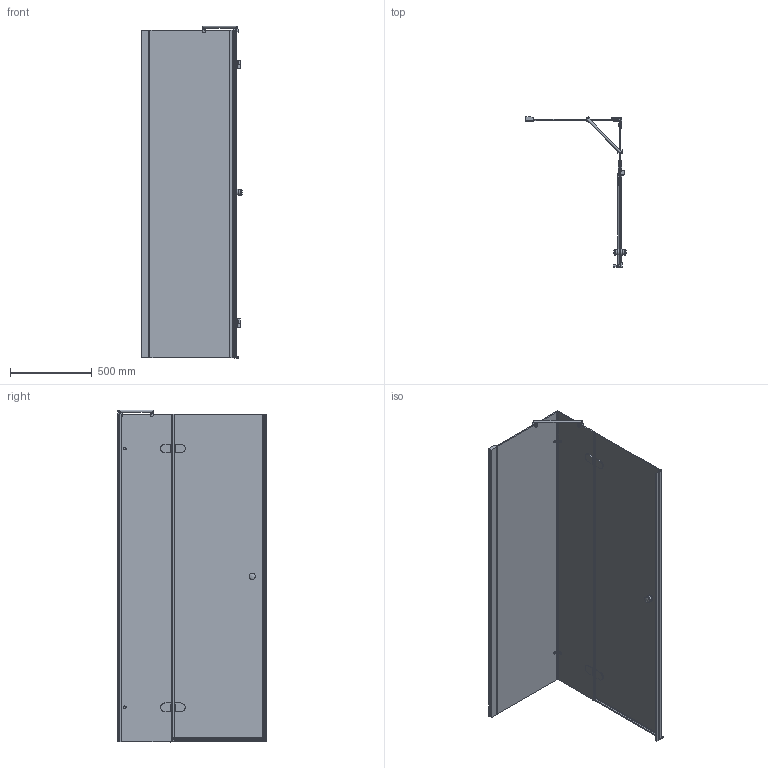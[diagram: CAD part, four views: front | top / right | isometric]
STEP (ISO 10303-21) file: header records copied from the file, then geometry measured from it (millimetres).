
FILE_DESCRIPTION(/* description */ (''),/* implementation_level */ '2;1');
FILE_NAME(/* name */ 'E:\Работа\Сергей\Душевые кабинки\! Работа\36\LUX SQUARE GK-883PGS\LUX SQUARE GK-883PGS правая модель\LUX SQUARE GK-883PGS ПРАВАЯ-3D.stp',/* time_stamp */ '2018-02-17T09:52:37+03:00',/* author */ ('PC'),/* organization */ (''),/* preprocessor_version */ 'ST-DEVELOPER v15.2',/* originating_system */ 'Autodesk Inventor 2014',/* authorisation */ '');
FILE_SCHEMA (('AUTOMOTIVE_DESIGN { 1 0 10303 214 3 1 1 }'));
Length unit declared in the file: millimetre
Products named in the file (1): LUX SQUARE GK-883PGS ПРАВАЯ-
3D
Bounding box: 617.14 x 913.8 x 2026 mm (x, y, z)
Volume: 24107234.7 mm3; surface area: 6576470.5 mm2
Topology: 3 solids, 3 shells, 610 faces, 1526 edges, 944 vertices
Faces by surface type: plane 425, cylinder 158, torus 11, sphere 7, bspline 5, cone 4
Full cylindrical faces by diameter (mm): 11 x4, 12 x2, 15 x1, 18 x4, 20 x2, 38 x4
Entity records: 18688 total; most frequent: CARTESIAN_POINT 3640, ORIENTED_EDGE 2958, DIRECTION 2950, EDGE_CURVE 1476, LINE 1104, VECTOR 1104, VERTEX_POINT 924, AXIS2_PLACEMENT_3D 923
